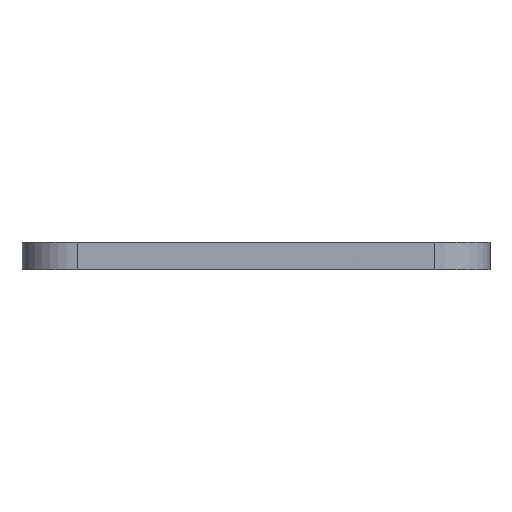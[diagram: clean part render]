
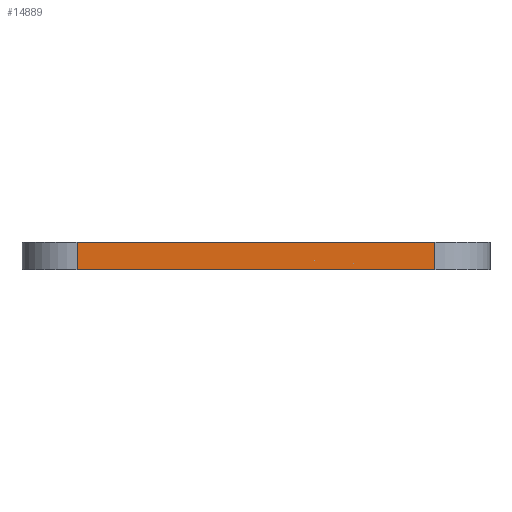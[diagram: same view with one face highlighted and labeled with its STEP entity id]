
A CAD part, left-side view. The second image highlights one B-rep face of the part: STEP entity #14889.
In plain terms, the highlighted planar face has unit normal (-1, 0, 0).
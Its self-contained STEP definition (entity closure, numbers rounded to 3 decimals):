
#2471=FACE_OUTER_BOUND('',#3331,.T.);
#3331=EDGE_LOOP('',(#13780,#13781,#13782,#13783));
#4483=LINE('',#26032,#5645);
#4500=LINE('',#26133,#5662);
#4501=LINE('',#26136,#5663);
#4502=LINE('',#26137,#5664);
#5645=VECTOR('',#16845,10.);
#5662=VECTOR('',#16974,10.);
#5663=VECTOR('',#16977,10.);
#5664=VECTOR('',#16978,10.);
#7120=VERTEX_POINT('',#26029);
#7121=VERTEX_POINT('',#26031);
#7149=VERTEX_POINT('',#26131);
#7150=VERTEX_POINT('',#26135);
#9326=EDGE_CURVE('',#7120,#7121,#4483,.T.);
#9369=EDGE_CURVE('',#7149,#7121,#4500,.T.);
#9370=EDGE_CURVE('',#7150,#7149,#4501,.T.);
#9371=EDGE_CURVE('',#7150,#7120,#4502,.T.);
#13780=ORIENTED_EDGE('',*,*,#9370,.T.);
#13781=ORIENTED_EDGE('',*,*,#9369,.T.);
#13782=ORIENTED_EDGE('',*,*,#9326,.F.);
#13783=ORIENTED_EDGE('',*,*,#9371,.F.);
#14094=PLANE('',#15202);
#14889=ADVANCED_FACE('',(#2471),#14094,.T.);
#15202=AXIS2_PLACEMENT_3D('',#26134,#16975,#16976);
#16845=DIRECTION('',(0.,-1.,0.));
#16974=DIRECTION('',(0.,0.,1.));
#16975=DIRECTION('center_axis',(-1.,0.,0.));
#16976=DIRECTION('ref_axis',(0.,-1.,0.));
#16977=DIRECTION('',(0.,-1.,0.));
#16978=DIRECTION('',(0.,0.,1.));
#26029=CARTESIAN_POINT('',(0.,75.,5.));
#26031=CARTESIAN_POINT('',(0.,10.,5.));
#26032=CARTESIAN_POINT('',(0.,75.,5.));
#26131=CARTESIAN_POINT('',(0.,10.,0.));
#26133=CARTESIAN_POINT('',(0.,10.,0.));
#26134=CARTESIAN_POINT('Origin',(0.,75.,0.));
#26135=CARTESIAN_POINT('',(0.,75.,0.));
#26136=CARTESIAN_POINT('',(0.,75.,0.));
#26137=CARTESIAN_POINT('',(0.,75.,0.));
